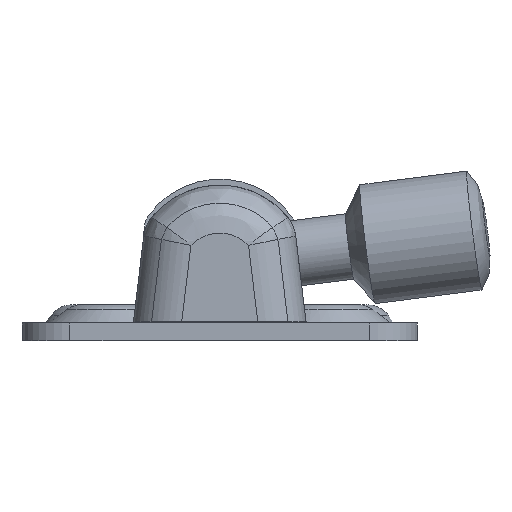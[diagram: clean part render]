
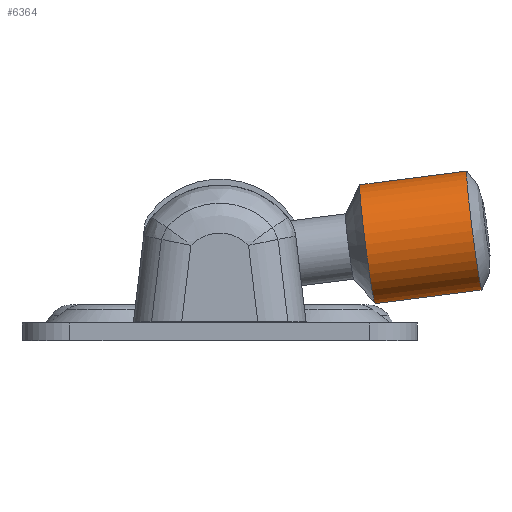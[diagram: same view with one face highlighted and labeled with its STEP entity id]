
A CAD part, left-side view. The second image highlights one B-rep face of the part: STEP entity #6364.
In plain terms, the highlighted cylindrical face has radius 5 mm (diameter 10 mm), a full revolution.
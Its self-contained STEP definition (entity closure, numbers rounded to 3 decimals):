
#1217=CYLINDRICAL_SURFACE('',#6856,5.);
#1326=FACE_BOUND('',#1971,.T.);
#1552=FACE_OUTER_BOUND('',#1970,.T.);
#1970=EDGE_LOOP('',(#4981));
#1971=EDGE_LOOP('',(#4982,#4983));
#2342=CIRCLE('',#6845,5.);
#2343=CIRCLE('',#6846,5.);
#2344=CIRCLE('',#6849,5.);
#2930=VERTEX_POINT('',#10831);
#2931=VERTEX_POINT('',#10835);
#2932=VERTEX_POINT('',#10840);
#3652=EDGE_CURVE('',#2930,#2931,#2342,.T.);
#3653=EDGE_CURVE('',#2931,#2930,#2343,.T.);
#3654=EDGE_CURVE('',#2932,#2932,#2344,.T.);
#4981=ORIENTED_EDGE('',*,*,#3654,.T.);
#4982=ORIENTED_EDGE('',*,*,#3653,.F.);
#4983=ORIENTED_EDGE('',*,*,#3652,.F.);
#6364=ADVANCED_FACE('',(#1552,#1326),#1217,.T.);
#6845=AXIS2_PLACEMENT_3D('',#10836,#7968,#7969);
#6846=AXIS2_PLACEMENT_3D('',#10837,#7970,#7971);
#6849=AXIS2_PLACEMENT_3D('',#10841,#7976,#7977);
#6856=AXIS2_PLACEMENT_3D('',#10912,#7990,#7991);
#7968=DIRECTION('center_axis',(0.035,0.999,0.));
#7969=DIRECTION('ref_axis',(0.999,-0.035,0.));
#7970=DIRECTION('center_axis',(0.035,0.999,0.));
#7971=DIRECTION('ref_axis',(0.999,-0.035,0.));
#7976=DIRECTION('center_axis',(0.035,0.999,0.));
#7977=DIRECTION('ref_axis',(-0.999,0.035,0.));
#7990=DIRECTION('center_axis',(0.035,0.999,0.));
#7991=DIRECTION('ref_axis',(-0.999,0.035,0.));
#10831=CARTESIAN_POINT('',(67.571,21.252,0.));
#10835=CARTESIAN_POINT('',(57.577,21.601,0.));
#10836=CARTESIAN_POINT('Origin',(62.574,21.426,0.));
#10837=CARTESIAN_POINT('Origin',(62.574,21.426,0.));
#10840=CARTESIAN_POINT('',(57.263,12.606,0.));
#10841=CARTESIAN_POINT('Origin',(62.26,12.432,0.));
#10912=CARTESIAN_POINT('Origin',(62.434,17.429,0.));
